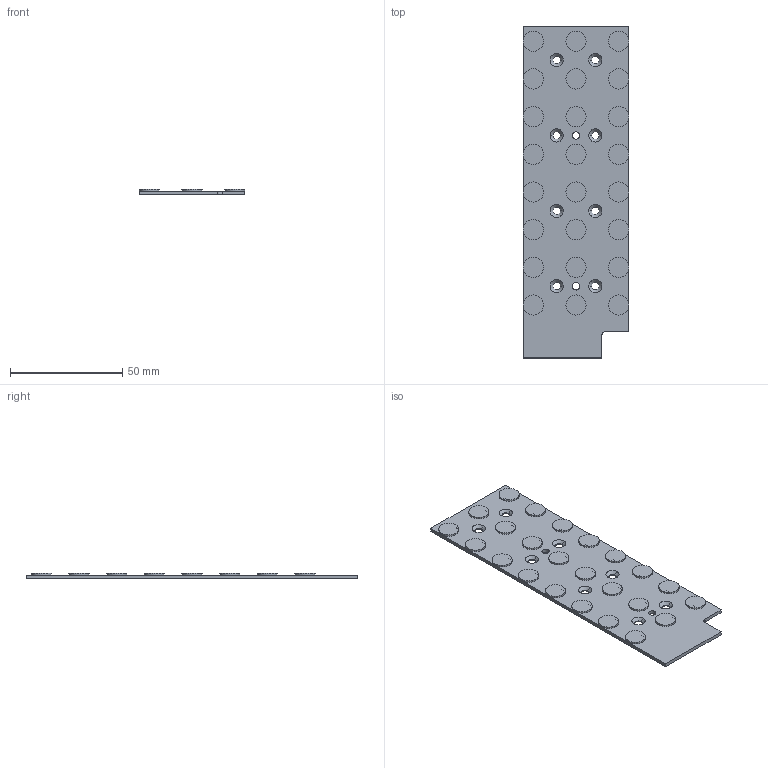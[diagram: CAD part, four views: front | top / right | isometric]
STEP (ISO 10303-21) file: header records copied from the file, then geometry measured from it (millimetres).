
FILE_DESCRIPTION(('CATIA V5 STEP Exchange','CAx-IF Rec.Pracs.--- Model Styling and Organization---1.4--- 2014-01-23'),'2;1');
FILE_NAME('Z:\Engineering\Design Library\Strada_IP-24\6-Sessions\5-PCB\Strada_IP-24_PCB_HB_004.stp','2024-01-16T08:11:58+00:00',('none'),('none'),'CATIA Version 5-6 Release 2018 SP4','CATIA V5 STEP AP214','none');
FILE_SCHEMA(('AUTOMOTIVE_DESIGN { 1 0 10303 214 1 1 1 1 }'));
Length unit declared in the file: millimetre
Products named in the file (1): Strada-IP-24-PCB_and_HB-IP-24-PCB
Bounding box: 47 x 148 x 2.4 mm (x, y, z)
Volume: 11844.1 mm3; surface area: 17905.5 mm2
Topology: 49 solids, 49 shells, 429 faces, 910 edges, 604 vertices
Faces by surface type: plane 344, cylinder 69, cone 16
Entity records: 10222 total; most frequent: ORIENTED_EDGE 1810, CARTESIAN_POINT 1712, DIRECTION 1296, EDGE_CURVE 905, VECTOR 756, LINE 756, VERTEX_POINT 598, EDGE_LOOP 473
